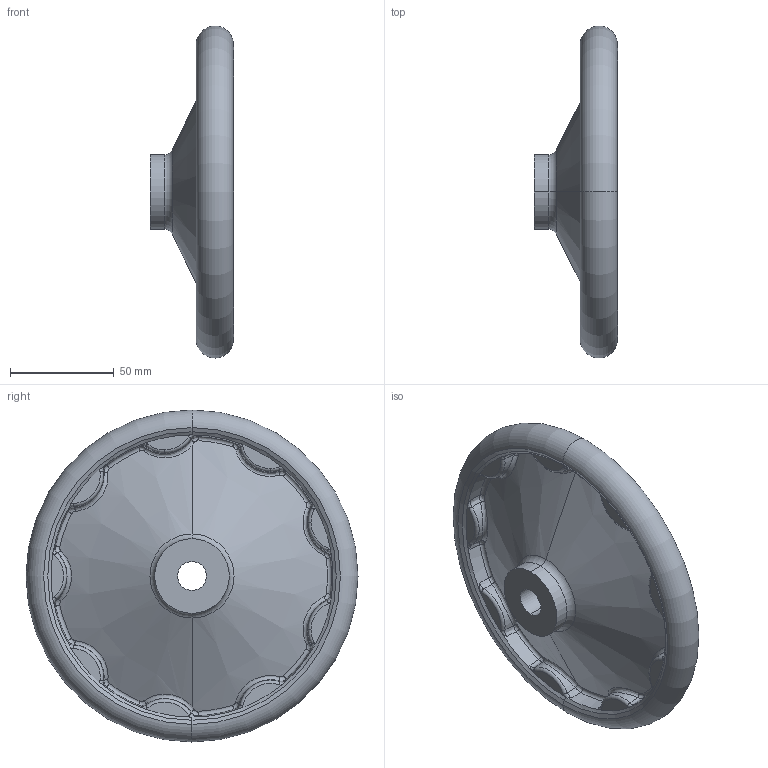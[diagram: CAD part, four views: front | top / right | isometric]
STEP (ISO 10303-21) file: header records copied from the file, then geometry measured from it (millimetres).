
FILE_DESCRIPTION (( 'STEP AP214' ), '1' );
FILE_NAME ('3670-160-B14.step', '2020-05-28T14:32:05', ( '' ), ( '' ), 'SwSTEP 2.0', 'SolidWorks 2019', '' );
FILE_SCHEMA (( 'AUTOMOTIVE_DESIGN' ));
Length unit declared in the file: millimetre
Products named in the file (1): 3670-160-B14
Bounding box: 40 x 159.99 x 159.99 mm (x, y, z)
Volume: 185189.5 mm3; surface area: 52649.3 mm2
Topology: 1 solids, 1 shells, 136 faces, 314 edges, 181 vertices
Faces by surface type: bspline 63, cone 29, torus 28, plane 12, cylinder 4
Entity records: 7254 total; most frequent: CARTESIAN_POINT 4584, ORIENTED_EDGE 628, DIRECTION 467, EDGE_CURVE 314, AXIS2_PLACEMENT_3D 226, VERTEX_POINT 181, CIRCLE 152, B_SPLINE_CURVE_WITH_KNOTS 147
